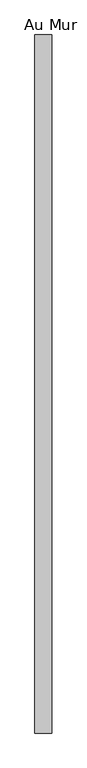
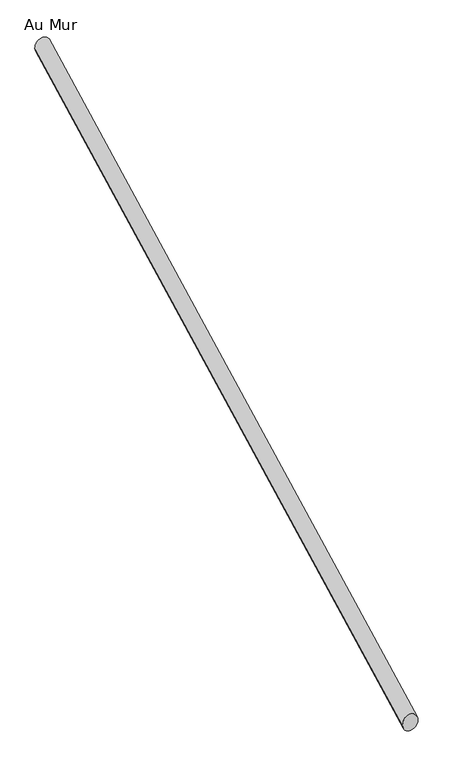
"""IFC4 building model written with IfcOpenShell, lengths in millimetres: railing geometry, Au Mur."""

from ifc_helpers import new_model, si_unit, frame, origin, place, context, project, spatial, ellipse_curve, source, transform, mapped, element, save
from ifc_brep_helpers import plane_surface, cylinder_surface, advanced_brep


def au_mur_fd2b3c5a(model_context):
    return source(origin(), model_context, "Body", "AdvancedBrep", [
        advanced_brep(
        [(-5703.2869402, -11586.5819901, 1296.4281805), (-5733.2869402, -11586.5819901, 1296.4281805), (-5703.2869402, -10346.5819901, 1936.4281805), (-5733.2869402, -10346.5819901, 1936.4281805)],
        [
            (0, 1, ellipse_curve(frame((-5718.2869402, -11586.5819901, 1296.4281805), z_axis=(0.0, -1.0, 0.0), x_axis=(0.0, 0.0, -1.0)), 16.8800938, 15.0)),
            (1, 0, ellipse_curve(frame((-5718.2869402, -11586.5819901, 1296.4281805), z_axis=(0.0, -1.0, 0.0), x_axis=(0.0, 0.0, -1.0)), 16.8800938, 15.0)),
            (2, 3, ellipse_curve(frame((-5718.2869402, -10346.5819901, 1936.4281805), z_axis=(0.0, 1.0, 0.0), x_axis=(0.0, 0.0, -1.0)), 16.8800938, 15.0)),
            (3, 2, ellipse_curve(frame((-5718.2869402, -10346.5819901, 1936.4281805), z_axis=(0.0, 1.0, 0.0), x_axis=(0.0, 0.0, -1.0)), 16.8800938, 15.0)),
            (0, 2),
            (3, 1),
        ],
        [
            plane_surface(frame((-5718.2869402, -11586.5819901, 1313.3082742), z_axis=(0.0, -1.0, 0.0), x_axis=(0.0, 0.0, 1.0))),
            plane_surface(frame((-5718.2869402, -10346.5819901, 1953.3082742), z_axis=(0.0, 1.0, 0.0), x_axis=(0.0, 0.0, 1.0))),
            cylinder_surface(frame((-5718.2869402, -11579.7023464, 1299.9789644), z_axis=(0.0, -0.8886206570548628, -0.45864291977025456), x_axis=(-1.0, 0.0, 0.0)), 15.0),
        ],
        [
            (0, [[1, 2]]),
            (1, [[3, 4]]),
            (2, [[-1, 5, -4, 6]]),
            (2, [[-2, -6, -3, -5]]),
        ],
    ),
    ])


if __name__ == "__main__":
    model = new_model("IFC4")
    model_context = context("Model", 3, world=origin())
    ifc_project = project(units=[si_unit("LENGTHUNIT", "METRE", prefix="MILLI")], contexts=[model_context])
    site = spatial("IfcSite", under=ifc_project)
    building = spatial("IfcBuilding", under=site)
    placement = place(None, origin())
    au_mur_shape = au_mur_fd2b3c5a(model_context)
    element("IfcRailing", 1, ObjectType="Au Mur", at=placement, inside=building, context=model_context, shape_type="MappedRepresentation", body=[
        mapped(au_mur_shape, transform((0.0, 0.0, 0.0), x_axis=(1.0, 0.0, 0.0), y_axis=(0.0, 1.0, 0.0), z_axis=(0.0, 0.0, 1.0))),
    ])
    save(model, "model.ifc")
